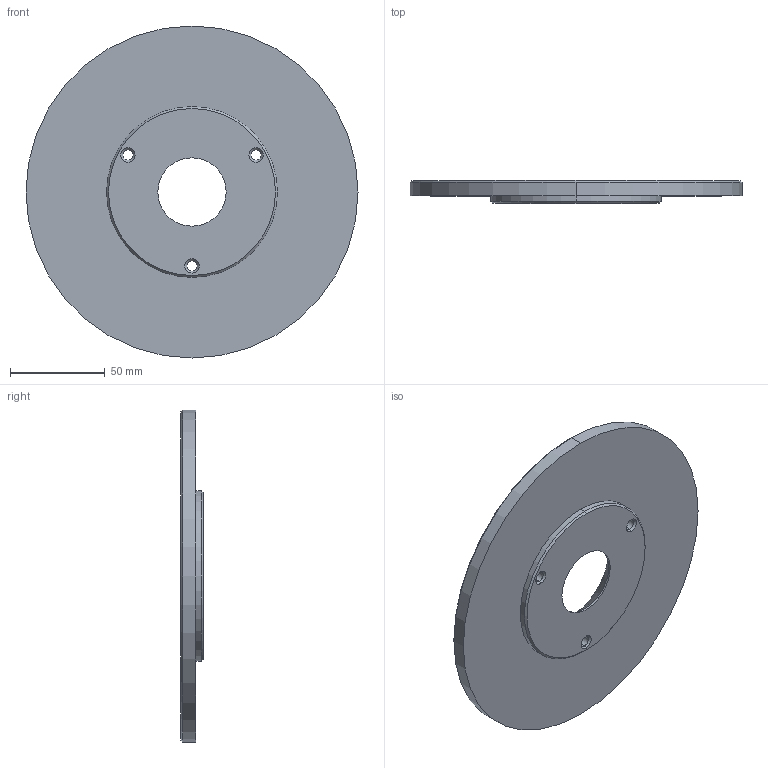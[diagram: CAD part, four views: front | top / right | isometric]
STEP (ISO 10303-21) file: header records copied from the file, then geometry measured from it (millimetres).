
FILE_DESCRIPTION (( 'STEP AP214' ), '1' );
FILE_NAME ('BR1000-175x12.STEP', '2020-02-05T12:24:28', ( 'August' ), ( '' ), 'SwSTEP 2.0', 'SolidWorks 2018', '' );
FILE_SCHEMA (( 'AUTOMOTIVE_DESIGN' ));
Length unit declared in the file: millimetre
Products named in the file (1): BR1000-175x12
Bounding box: 175 x 12 x 175 mm (x, y, z)
Volume: 195294.8 mm3; surface area: 52506.5 mm2
Topology: 1 solids, 1 shells, 42 faces, 90 edges, 54 vertices
Faces by surface type: cone 18, cylinder 18, plane 6
Entity records: 1194 total; most frequent: DIRECTION 230, CARTESIAN_POINT 187, ORIENTED_EDGE 180, AXIS2_PLACEMENT_3D 97, EDGE_CURVE 90, EDGE_LOOP 54, CIRCLE 54, VERTEX_POINT 54
